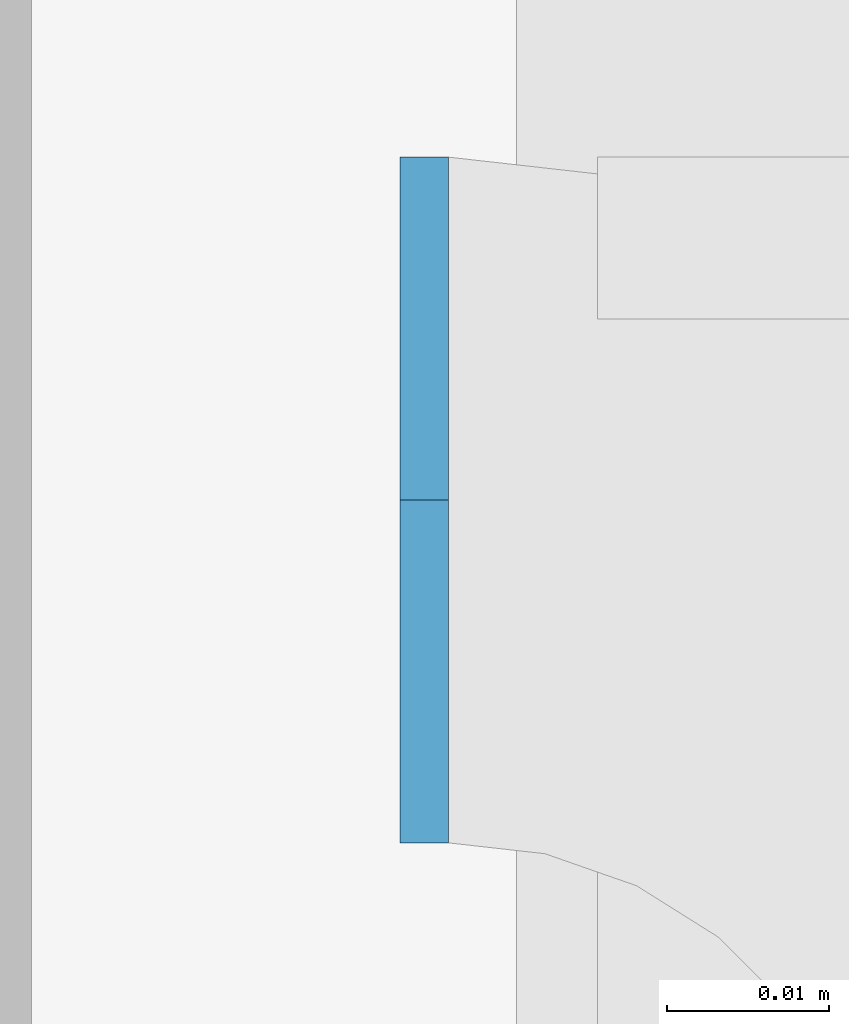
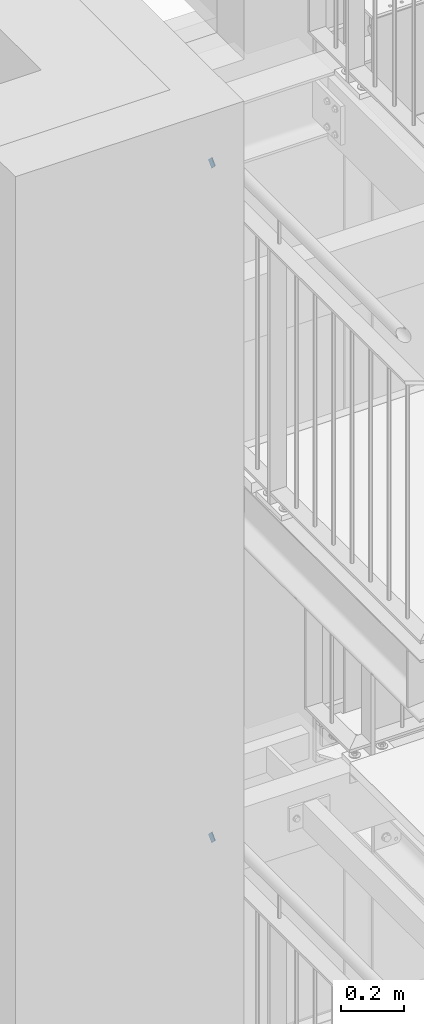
# One storey, part 223 of 831: 2 plates, 8 openings.
"""IFC2X3 building model written with IfcOpenShell, lengths in millimetres."""

import ifcopenshell
import ifcopenshell.guid

model = None  # the IFC model being written
_history = None  # IfcOwnerHistory: only IFC2X3 demands one
_inside = {}  # id of a spatial element -> (the spatial element, [elements in it])
_under = {}  # id of a project, library or spatial element -> (it, [spatial elements below it])
_declared = {}  # id of a project -> (the project, [libraries it declares])
_typed = {}  # id of a type object -> (the type object, [elements of that type])
_made_of = {}  # id of a material, layer set ... -> (it, [elements and type objects made of it])


def new_model(schema):
    """Start an empty IFC model of exactly this schema.

    Asked for "IFC4X3", IfcOpenShell would pick the latest addendum, in which some entities
    have other attributes; the version numbers below select the first issue.
    IFC2X3 requires an IfcOwnerHistory on every rooted entity: one is made here for all.
    """
    global model, _history
    if schema == "IFC4X3":
        model = ifcopenshell.file(schema_version=(4, 3, 0, 0))
    else:
        model = ifcopenshell.file(schema=schema)
    _inside.clear()
    _under.clear()
    _declared.clear()
    _typed.clear()
    _made_of.clear()
    _history = None
    if model.schema == "IFC2X3":
        org = make("IfcOrganization", Name="unknown")
        user = make(
            "IfcPersonAndOrganization",
            ThePerson=make("IfcPerson", FamilyName="unknown"),
            TheOrganization=org,
        )
        app = make(
            "IfcApplication",
            ApplicationDeveloper=org,
            Version="unknown",
            ApplicationFullName="unknown",
            ApplicationIdentifier="unknown",
        )
        _history = make(
            "IfcOwnerHistory",
            OwningUser=user,
            OwningApplication=app,
            ChangeAction="ADDED",
            CreationDate=0,
        )
    return model


def make(cls, **values):
    """One entity of the class cls with the attributes given. An attribute that is None is left unset."""
    return model.create_entity(
        cls, **{name: value for name, value in values.items() if value is not None}
    )


def entity(cls, *values):
    """Any entity or typed value of the class cls, its attributes in the order of the schema. None: left unset."""
    e = model.create_entity(cls)
    for i, value in enumerate(values):
        if value is not None:
            e[i] = value
    return e


def rooted(cls, **values):
    """An entity with a GlobalId (a new one), such as an element, a storey or a relation."""
    return make(cls, GlobalId=ifcopenshell.guid.new(), OwnerHistory=_history, **values)


def si_unit(unit_type, name, prefix=None):
    """IfcSIUnit, for example si_unit("LENGTHUNIT", "METRE", prefix="MILLI")."""
    return make("IfcSIUnit", UnitType=unit_type, Prefix=prefix, Name=name)


def converted_unit(unit_type, name, factor, base, dimensions=None, offset=None):
    """IfcConversionBasedUnit, such as the inch: factor (a typed value) times the base unit."""
    return make(
        "IfcConversionBasedUnit"
        if offset is None
        else "IfcConversionBasedUnitWithOffset",
        ConversionOffset=offset,
        Dimensions=None
        if dimensions is None
        else entity("IfcDimensionalExponents", *dimensions),
        UnitType=unit_type,
        Name=name,
        ConversionFactor=make(
            "IfcMeasureWithUnit", ValueComponent=factor, UnitComponent=base
        ),
    )


def assignment(units):
    """IfcUnitAssignment: the units of a project."""
    return None if units is None else make("IfcUnitAssignment", Units=units)


def point(xyz):
    """IfcCartesianPoint."""
    return None if xyz is None else make("IfcCartesianPoint", Coordinates=xyz)


def direction(xyz):
    """IfcDirection."""
    return None if xyz is None else make("IfcDirection", DirectionRatios=xyz)


def frame(location, z_axis=None, x_axis=None):
    """IfcAxis2Placement3D, a coordinate frame: its origin and axes. An axis left out is left unset."""
    return make(
        "IfcAxis2Placement3D",
        Location=point(location),
        Axis=direction(z_axis),
        RefDirection=direction(x_axis),
    )


def frame_2d(location, x_axis=None):
    """IfcAxis2Placement2D, a coordinate frame in the plane: its origin and x axis."""
    return make(
        "IfcAxis2Placement2D", Location=point(location), RefDirection=direction(x_axis)
    )


def origin():
    """The frame at (0, 0, 0) with its axes left unset."""
    return frame((0.0, 0.0, 0.0))


def origin_with_axes():
    """The frame at (0, 0, 0) with the z axis (0, 0, 1) and the x axis (1, 0, 0) written out."""
    return frame((0.0, 0.0, 0.0), z_axis=(0.0, 0.0, 1.0), x_axis=(1.0, 0.0, 0.0))


def place(relative_to, where):
    """IfcLocalPlacement: puts the frame where relative to a parent placement (None: the world)."""
    return make(
        "IfcLocalPlacement", PlacementRelTo=relative_to, RelativePlacement=where
    )


def context(
    kind, dimensions, precision=None, world=None, true_north=None, identifier=None
):
    """IfcGeometricRepresentationContext, for example the 3D "Model" context."""
    return make(
        "IfcGeometricRepresentationContext",
        ContextIdentifier=identifier,
        ContextType=kind,
        CoordinateSpaceDimension=dimensions,
        Precision=precision,
        WorldCoordinateSystem=world,
        TrueNorth=true_north,
    )


def project(units=None, contexts=None):
    """IfcProject with its units and contexts."""
    return rooted(
        "IfcProject",
        Name="project",
        RepresentationContexts=contexts,
        UnitsInContext=assignment(units),
    )


def spatial(cls, under=None, at=None, **own):
    """A site, building, storey or space (cls), placed at a placement, below another one or the project."""
    s = rooted(cls, ObjectPlacement=at, **own)
    if under is not None:
        _under.setdefault(under.id(), (under, []))[1].append(s)
    return s


def polyline(points):
    """IfcPolyline through the points."""
    return make("IfcPolyline", Points=[point(p) for p in points])


def circle_curve(where, radius):
    """IfcCircle in the frame where."""
    return make("IfcCircle", Position=where, Radius=radius)


def line_curve(start, along, magnitude):
    """IfcLine from a point along a vector."""
    return make(
        "IfcLine",
        Pnt=point(start),
        Dir=make("IfcVector", Orientation=direction(along), Magnitude=magnitude),
    )


def trimmed(basis, trim1, trim2, sense, master):
    """IfcTrimmedCurve: the piece of a basis curve between two trims."""
    return make(
        "IfcTrimmedCurve",
        BasisCurve=basis,
        Trim1=trim1,
        Trim2=trim2,
        SenseAgreement=sense,
        MasterRepresentation=master,
    )


def segment(curve, same_sense, transition):
    """IfcCompositeCurveSegment."""
    return make(
        "IfcCompositeCurveSegment",
        Transition=transition,
        SameSense=same_sense,
        ParentCurve=curve,
    )


def composite_curve(segments, self_intersect=None):
    """IfcCompositeCurve: segments joined end to end."""
    return make("IfcCompositeCurve", Segments=segments, SelfIntersect=self_intersect)


def outline(outer, holes=None, kind="AREA"):
    """IfcArbitraryClosedProfileDef: a profile drawn as a closed curve; with holes, ...WithVoids."""
    if holes is None:
        return make("IfcArbitraryClosedProfileDef", ProfileType=kind, OuterCurve=outer)
    return make(
        "IfcArbitraryProfileDefWithVoids",
        ProfileType=kind,
        OuterCurve=outer,
        InnerCurves=holes,
    )


def extrude(swept, where, along, depth):
    """IfcExtrudedAreaSolid: the profile swept, set in the frame where, extruded along a direction by depth."""
    return make(
        "IfcExtrudedAreaSolid",
        SweptArea=swept,
        Position=where,
        ExtrudedDirection=direction(along),
        Depth=depth,
    )


def shape(context_of_items, identifier, shape_type, items):
    """IfcShapeRepresentation: the items that make up one representation, for example the "Body"."""
    return make(
        "IfcShapeRepresentation",
        ContextOfItems=context_of_items,
        RepresentationIdentifier=identifier,
        RepresentationType=shape_type,
        Items=items,
    )


def material(Name=None, Category=None):
    """IfcMaterial."""
    return make("IfcMaterial", Name=Name, Category=Category)


def layer(
    of_material, thickness, ventilated=None, Name=None, Category=None, Priority=None
):
    """IfcMaterialLayer: one layer of a wall or slab, of a material (None: an air gap)."""
    return make(
        "IfcMaterialLayer",
        Material=of_material,
        LayerThickness=thickness,
        IsVentilated=ventilated,
        Name=Name,
        Category=Category,
        Priority=Priority,
    )


def layer_set(layers, Name=None):
    """IfcMaterialLayerSet."""
    return make("IfcMaterialLayerSet", MaterialLayers=layers, LayerSetName=Name)


def made_of(thing, what):
    """Note that an element or type object is made of a material, layer set ...; save() writes the relation."""
    if what is not None:
        _made_of.setdefault(what.id(), (what, []))[1].append(thing)
    return thing


def element(
    cls,
    number,
    at=None,
    inside=None,
    cuts=None,
    type_object=None,
    material=None,
    context=None,
    identifier="Body",
    shape_type=None,
    held_by="IfcProductDefinitionShape",
    body=None,
    shapes=None,
    **own,
):
    """One element of the class cls, such as IfcWall. Its Tag is "e" and its number.

    at: its placement. inside: the storey or other place that contains it. cuts: it is an
    opening in that element (IfcRelVoidsElement). A single representation is given by context,
    identifier, shape_type and body (its items); several are given by shapes. held_by: the class
    of the entity that holds the representations. save() writes the other relations.
    """
    e = rooted(cls, Tag="e%d" % number, ObjectPlacement=at, **own)
    if body is not None:
        shapes = [shape(context, identifier, shape_type, body)]
    if shapes is not None:
        e.Representation = make(held_by, Representations=shapes)
    if inside is not None:
        _inside.setdefault(inside.id(), (inside, []))[1].append(e)
    if cuts is not None:
        rooted(
            "IfcRelVoidsElement", RelatingBuildingElement=cuts, RelatedOpeningElement=e
        )
    if type_object is not None:
        _typed.setdefault(type_object.id(), (type_object, []))[1].append(e)
    return made_of(e, material)


def aggregate(whole, parts):
    """IfcRelAggregates: a whole, such as a stair, and the parts it consists of."""
    return rooted("IfcRelAggregates", RelatingObject=whole, RelatedObjects=parts)


def save(model, path):
    """Write the relations noted so far, then the file.

    IfcRelAggregates (storeys below a building ...), IfcRelContainedInSpatialStructure (elements
    in a storey), IfcRelDefinesByType, IfcRelAssociatesMaterial and IfcRelDeclares: one each for
    every whole, place, type object, material and project.
    """
    for whole, parts in _under.values():
        aggregate(whole, parts)
    for where, things in _inside.values():
        rooted(
            "IfcRelContainedInSpatialStructure",
            RelatedElements=things,
            RelatingStructure=where,
        )
    for kind, things in _typed.values():
        rooted("IfcRelDefinesByType", RelatedObjects=things, RelatingType=kind)
    for what, things in _made_of.values():
        rooted("IfcRelAssociatesMaterial", RelatedObjects=things, RelatingMaterial=what)
    for by, libraries in _declared.values():
        rooted("IfcRelDeclares", RelatingContext=by, RelatedDefinitions=libraries)
    model.write(path)


model = new_model("IFC2X3")

# Units and contexts
model_context = context("Model", 3, precision=1e-09, world=origin_with_axes())
ifc_project = project(units=[si_unit("LENGTHUNIT", "METRE", prefix="MILLI"), si_unit("AREAUNIT", "SQUARE_METRE"), si_unit("VOLUMEUNIT", "CUBIC_METRE"), converted_unit("PLANEANGLEUNIT", "DEGREE", entity("IfcPlaneAngleMeasure", 0.01745329), si_unit("PLANEANGLEUNIT", "RADIAN"), dimensions=[0, 0, 0, 0, 0, 0, 0])], contexts=[model_context])

# Site, building, storey
site_placement = place(None, origin_with_axes())
site = spatial("IfcSite", under=ifc_project, at=site_placement, Name="Site", CompositionType="ELEMENT")
building_placement = place(site_placement, origin_with_axes())
building = spatial("IfcBuilding", under=site, at=building_placement, Name="Struktur 1", CompositionType="ELEMENT")
storey_placement = place(building_placement, origin_with_axes())
storey = spatial("IfcBuildingStorey", under=building, at=storey_placement, Name="Default Storey", CompositionType="ELEMENT", Elevation=0.0)

# Plate, openings
ifc_material = material(Name="S235JR")
ifc_layer = layer(ifc_material, 3.0)
ifc_layer_set = layer_set([ifc_layer], Name="S235JR")
plate_1_placement = place(None, frame((3232.513402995, 5783.18329849, 18974.000000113), z_axis=(-1.0, 0.0, 0.0), x_axis=(0.0, 0.0, 1.0)))
plate_1 = element("IfcPlate", 1, at=plate_1_placement, inside=storey, material=ifc_layer_set, Name="-", ObjectType="-", context=model_context, shape_type="SweptSolid", body=[
    extrude(outline(polyline([(21.2, 0.0), (21.2, 42.4), (-21.2, 42.4), (-21.2, 0.0), (21.2, 0.0)])), origin_with_axes(), (0.0, 0.0, 1.0), 3.0),
])
opening_1_placement = place(plate_1_placement, frame((0.0, 0.0, -0.01), z_axis=(0.0, 0.0, 1.0), x_axis=(1.0, 0.0, 0.0)))
element("IfcOpeningElement", 2, at=opening_1_placement, cuts=plate_1, ObjectType="Opening", context=model_context, shape_type="SweptSolid", body=[
    extrude(outline(composite_curve([segment(trimmed(line_curve((21.2, 0.0), (0.0, 1.0), 21.2), [point((21.2, 0.0))], [point((21.2, 21.2))], True, "CARTESIAN"), True, "CONTINUOUS"), segment(trimmed(circle_curve(frame_2d((0.0, 21.2), x_axis=(-1.0, 0.0)), 21.2), [point((21.2, 21.2))], [point((0.0, 0.0))], False, "CARTESIAN"), True, "CONTINUOUS"), segment(trimmed(line_curve((0.0, 0.0), (1.0, 0.0), 21.2), [point((0.0, 0.0))], [point((21.2, 0.0))], True, "CARTESIAN"), True, "CONTINUOUS")], self_intersect=False)), origin(), (0.0, 0.0, 1.0), 3.02),
])
opening_2_placement = place(plate_1_placement, frame((0.0, 0.0, -0.01), z_axis=(0.0, 0.0, 1.0), x_axis=(1.0, 0.0, 0.0)))
element("IfcOpeningElement", 3, at=opening_2_placement, cuts=plate_1, ObjectType="Opening", context=model_context, shape_type="SweptSolid", body=[
    extrude(outline(composite_curve([segment(trimmed(line_curve((21.2, 42.4), (-1.0, 0.0), 21.2), [point((21.2, 42.4))], [point((0.0, 42.4))], True, "CARTESIAN"), True, "CONTINUOUS"), segment(trimmed(circle_curve(frame_2d((0.0, 21.2), x_axis=(-1.0, 0.0)), 21.2), [point((0.0, 42.4))], [point((21.2, 21.2))], False, "CARTESIAN"), True, "CONTINUOUS"), segment(trimmed(line_curve((21.2, 21.2), (0.0, 1.0), 21.2), [point((21.2, 21.2))], [point((21.2, 42.4))], True, "CARTESIAN"), True, "CONTINUOUS")], self_intersect=False)), origin(), (0.0, 0.0, 1.0), 3.02),
])
opening_3_placement = place(plate_1_placement, frame((0.0, 0.0, -0.01), z_axis=(0.0, 0.0, 1.0), x_axis=(1.0, 0.0, 0.0)))
element("IfcOpeningElement", 4, at=opening_3_placement, cuts=plate_1, ObjectType="Opening", context=model_context, shape_type="SweptSolid", body=[
    extrude(outline(composite_curve([segment(trimmed(line_curve((-21.2, 42.4), (0.0, -1.0), 21.2), [point((-21.2, 42.4))], [point((-21.2, 21.2))], True, "CARTESIAN"), True, "CONTINUOUS"), segment(trimmed(circle_curve(frame_2d((0.0, 21.2), x_axis=(-1.0, 0.0)), 21.2), [point((-21.2, 21.2))], [point((0.0, 42.4))], False, "CARTESIAN"), True, "CONTINUOUS"), segment(trimmed(line_curve((0.0, 42.4), (-1.0, 0.0), 21.2), [point((0.0, 42.4))], [point((-21.2, 42.4))], True, "CARTESIAN"), True, "CONTINUOUS")], self_intersect=False)), origin(), (0.0, 0.0, 1.0), 3.02),
])
opening_4_placement = place(plate_1_placement, frame((0.0, 0.0, -0.01), z_axis=(0.0, 0.0, 1.0), x_axis=(1.0, 0.0, 0.0)))
element("IfcOpeningElement", 5, at=opening_4_placement, cuts=plate_1, ObjectType="Opening", context=model_context, shape_type="SweptSolid", body=[
    extrude(outline(composite_curve([segment(trimmed(line_curve((-21.2, 0.0), (1.0, 0.0), 21.2), [point((-21.2, 0.0))], [point((0.0, 0.0))], True, "CARTESIAN"), True, "CONTINUOUS"), segment(trimmed(circle_curve(frame_2d((0.0, 21.2), x_axis=(-1.0, 0.0)), 21.2), [point((0.0, 0.0))], [point((-21.2, 21.2))], False, "CARTESIAN"), True, "CONTINUOUS"), segment(trimmed(line_curve((-21.2, 21.2), (0.0, -1.0), 21.2), [point((-21.2, 21.2))], [point((-21.2, 0.0))], True, "CARTESIAN"), True, "CONTINUOUS")], self_intersect=False)), origin(), (0.0, 0.0, 1.0), 3.02),
])

plate_2_placement = place(None, frame((3232.513402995, 5783.18329849, 16354.000000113), z_axis=(-1.0, 0.0, 0.0), x_axis=(0.0, 0.0, 1.0)))
plate_2 = element("IfcPlate", 6, at=plate_2_placement, inside=storey, material=ifc_layer_set, Name="-", ObjectType="-", context=model_context, shape_type="SweptSolid", body=[
    extrude(outline(polyline([(21.2, 0.0), (21.2, 42.4), (-21.2, 42.4), (-21.2, 0.0), (21.2, 0.0)])), origin_with_axes(), (0.0, 0.0, 1.0), 3.0),
])
opening_5_placement = place(plate_2_placement, frame((0.0, 0.0, -0.01), z_axis=(0.0, 0.0, 1.0), x_axis=(1.0, 0.0, 0.0)))
element("IfcOpeningElement", 7, at=opening_5_placement, cuts=plate_2, ObjectType="Opening", context=model_context, shape_type="SweptSolid", body=[
    extrude(outline(composite_curve([segment(trimmed(line_curve((21.2, 0.0), (0.0, 1.0), 21.2), [point((21.2, 0.0))], [point((21.2, 21.2))], True, "CARTESIAN"), True, "CONTINUOUS"), segment(trimmed(circle_curve(frame_2d((0.0, 21.2), x_axis=(-1.0, 0.0)), 21.2), [point((21.2, 21.2))], [point((0.0, 0.0))], False, "CARTESIAN"), True, "CONTINUOUS"), segment(trimmed(line_curve((0.0, 0.0), (1.0, 0.0), 21.2), [point((0.0, 0.0))], [point((21.2, 0.0))], True, "CARTESIAN"), True, "CONTINUOUS")], self_intersect=False)), origin(), (0.0, 0.0, 1.0), 3.02),
])
opening_6_placement = place(plate_2_placement, frame((0.0, 0.0, -0.01), z_axis=(0.0, 0.0, 1.0), x_axis=(1.0, 0.0, 0.0)))
element("IfcOpeningElement", 8, at=opening_6_placement, cuts=plate_2, ObjectType="Opening", context=model_context, shape_type="SweptSolid", body=[
    extrude(outline(composite_curve([segment(trimmed(line_curve((21.2, 42.4), (-1.0, 0.0), 21.2), [point((21.2, 42.4))], [point((0.0, 42.4))], True, "CARTESIAN"), True, "CONTINUOUS"), segment(trimmed(circle_curve(frame_2d((0.0, 21.2), x_axis=(-1.0, 0.0)), 21.2), [point((0.0, 42.4))], [point((21.2, 21.2))], False, "CARTESIAN"), True, "CONTINUOUS"), segment(trimmed(line_curve((21.2, 21.2), (0.0, 1.0), 21.2), [point((21.2, 21.2))], [point((21.2, 42.4))], True, "CARTESIAN"), True, "CONTINUOUS")], self_intersect=False)), origin(), (0.0, 0.0, 1.0), 3.02),
])
opening_7_placement = place(plate_2_placement, frame((0.0, 0.0, -0.01), z_axis=(0.0, 0.0, 1.0), x_axis=(1.0, 0.0, 0.0)))
element("IfcOpeningElement", 9, at=opening_7_placement, cuts=plate_2, ObjectType="Opening", context=model_context, shape_type="SweptSolid", body=[
    extrude(outline(composite_curve([segment(trimmed(line_curve((-21.2, 42.4), (0.0, -1.0), 21.2), [point((-21.2, 42.4))], [point((-21.2, 21.2))], True, "CARTESIAN"), True, "CONTINUOUS"), segment(trimmed(circle_curve(frame_2d((0.0, 21.2), x_axis=(-1.0, 0.0)), 21.2), [point((-21.2, 21.2))], [point((0.0, 42.4))], False, "CARTESIAN"), True, "CONTINUOUS"), segment(trimmed(line_curve((0.0, 42.4), (-1.0, 0.0), 21.2), [point((0.0, 42.4))], [point((-21.2, 42.4))], True, "CARTESIAN"), True, "CONTINUOUS")], self_intersect=False)), origin(), (0.0, 0.0, 1.0), 3.02),
])
opening_8_placement = place(plate_2_placement, frame((0.0, 0.0, -0.01), z_axis=(0.0, 0.0, 1.0), x_axis=(1.0, 0.0, 0.0)))
element("IfcOpeningElement", 10, at=opening_8_placement, cuts=plate_2, ObjectType="Opening", context=model_context, shape_type="SweptSolid", body=[
    extrude(outline(composite_curve([segment(trimmed(line_curve((-21.2, 0.0), (1.0, 0.0), 21.2), [point((-21.2, 0.0))], [point((0.0, 0.0))], True, "CARTESIAN"), True, "CONTINUOUS"), segment(trimmed(circle_curve(frame_2d((0.0, 21.2), x_axis=(-1.0, 0.0)), 21.2), [point((0.0, 0.0))], [point((-21.2, 21.2))], False, "CARTESIAN"), True, "CONTINUOUS"), segment(trimmed(line_curve((-21.2, 21.2), (0.0, -1.0), 21.2), [point((-21.2, 21.2))], [point((-21.2, 0.0))], True, "CARTESIAN"), True, "CONTINUOUS")], self_intersect=False)), origin(), (0.0, 0.0, 1.0), 3.02),
])

save(model, "model.ifc")
